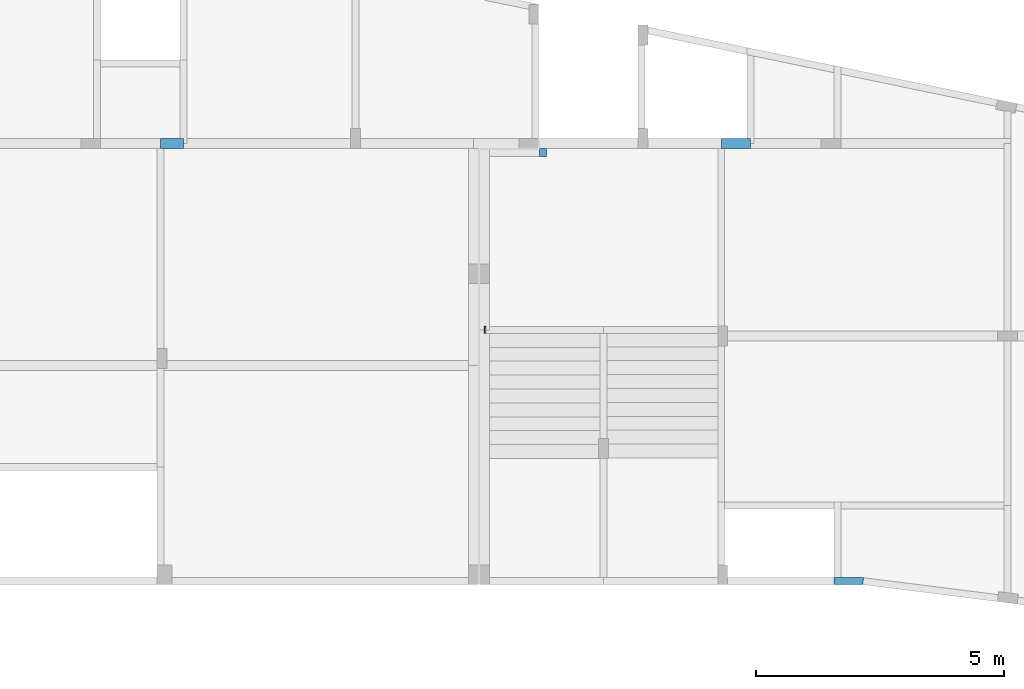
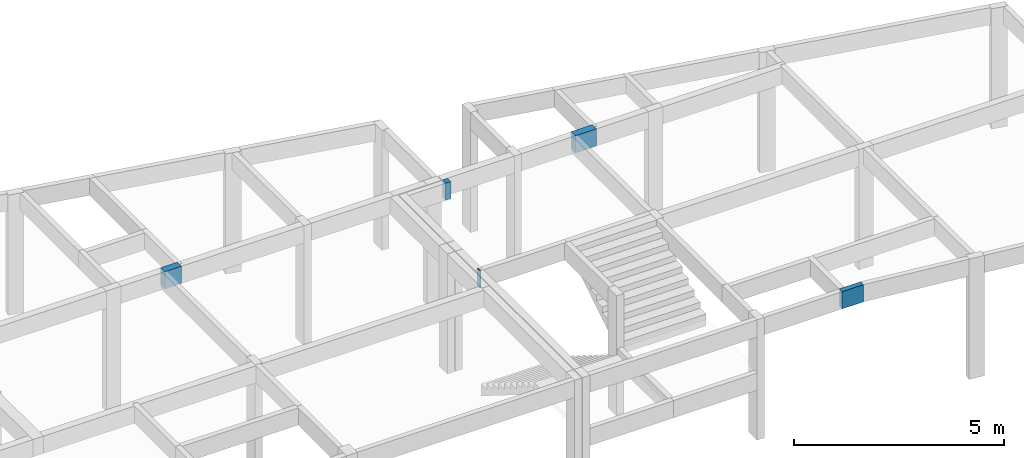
# One storey, part 3 of 5: 5 beams.
"""IFC4 building model written with IfcOpenShell, lengths in centimetres."""

from ifc_helpers import new_model, si_unit, derived_unit, frame, origin, origin_with_axes, origin_2d_with_axis, place, context, project, spatial, rectangle, extrude, clip, halfspace, material, element, save


model = new_model("IFC4")

# Units and contexts
model_context = context("Model", 3, precision=1e-05, world=origin_with_axes(), identifier="Body")
ifc_project = project(units=[si_unit("LENGTHUNIT", "METRE", prefix="CENTI"), si_unit("VOLUMEUNIT", "CUBIC_METRE"), si_unit("AREAUNIT", "SQUARE_METRE"), si_unit("POWERUNIT", "WATT"), si_unit("LUMINOUSFLUXUNIT", "LUMEN"), si_unit("ELECTRICCURRENTUNIT", "AMPERE"), si_unit("PRESSUREUNIT", "PASCAL", prefix="KILO"), si_unit("MASSUNIT", "GRAM", prefix="KILO"), si_unit("PLANEANGLEUNIT", "RADIAN"), derived_unit("VOLUMETRICFLOWRATEUNIT", [(si_unit("LENGTHUNIT", "METRE"), 3), (si_unit("TIMEUNIT", "SECOND"), -1)])], contexts=[model_context])

# Site, building, storey
site_placement = place(None, origin_with_axes())
site = spatial("IfcSite", under=ifc_project, at=site_placement)
building_placement = place(site_placement, origin())
building = spatial("IfcBuilding", under=site, at=building_placement)
placement_1 = place(building_placement, origin_with_axes())
placement_2 = place(placement_1, frame((0.0, 0.0, 550.0), z_axis=(0.0, 0.0, 1.0), x_axis=(1.0, 0.0, 0.0)))
storey_placement = place(placement_2, frame((0.0, 0.0, 350.0), z_axis=(0.0, 0.0, 1.0), x_axis=(1.0, 0.0, 0.0)))
storey = spatial("IfcBuildingStorey", under=building, at=storey_placement, Name="1º PAV.", CompositionType="ELEMENT", Elevation=900.0)

# Beams
ifc_material = material(Name="Concreto")
beam_1_placement = place(storey_placement, frame((2034.8, -455.9, 0.0), z_axis=(0.0, 0.0, 1.0), x_axis=(1.0, 0.0, 0.0)))
element("IfcBeam", 1, at=beam_1_placement, inside=storey, material=ifc_material, Name="V3", context=model_context, shape_type="SolidModel", body=[
    extrude(rectangle(XDim=20.0, YDim=50.0, at=origin_2d_with_axis()), frame((-23.2, 0.0, -25.0), z_axis=(1.0, 0.0, 0.0), x_axis=(0.0, 1.0, 0.0)), (0.0, 0.0, 1.0), 46.4),
])
beam_2_placement = place(storey_placement, frame((2782.0, -473.9, 0.0), z_axis=(0.0, 0.0, 1.0), x_axis=(1.0, 0.0, 0.0)))
element("IfcBeam", 2, at=beam_2_placement, inside=storey, material=ifc_material, Name="V39", context=model_context, shape_type="SolidModel", body=[
    extrude(rectangle(XDim=14.0, YDim=50.0, at=origin_2d_with_axis()), frame((0.0, -8.0, -25.0), z_axis=(0.0, 1.0, 0.0), x_axis=(1.0, 0.0, 0.0)), (0.0, 0.0, 1.0), 16.0),
])
beam_3_placement = place(storey_placement, frame((3169.8, -455.9, 0.0), z_axis=(0.0, 0.0, 1.0), x_axis=(1.0, 0.0, 0.0)))
element("IfcBeam", 3, at=beam_3_placement, inside=storey, material=ifc_material, Name="V5", context=model_context, shape_type="SolidModel", body=[
    extrude(rectangle(XDim=20.0, YDim=50.0, at=origin_2d_with_axis()), frame((-29.2, 0.0, -25.0), z_axis=(1.0, 0.0, 0.0), x_axis=(0.0, 1.0, 0.0)), (0.0, 0.0, 1.0), 58.4),
])
beam_4_placement = place(storey_placement, frame((3397.217338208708, -1337.0556334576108, 0.0), z_axis=(0.0, 0.0, 1.0), x_axis=(1.0, 0.0, 0.0)))
element("IfcBeam", 4, at=beam_4_placement, inside=storey, material=ifc_material, Name="V52", context=model_context, shape_type="Clipping", body=[
    clip(extrude(rectangle(XDim=14.0, YDim=50.0, at=origin_2d_with_axis()), frame((-29.618689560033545, -0.005718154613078, -25.0), z_axis=(1.0, 0.000193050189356, 0.0), x_axis=(-0.000193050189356, 1.0, 0.0)), (0.0, 0.0, 1.0), 59.24008292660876), halfspace(frame((29.620040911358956, 7.005718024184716, -50.0), z_axis=(-0.998053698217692, 0.06236036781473, 0.0), x_axis=(0.0, 0.0, -0.062553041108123)), True)),
])
beam_5_placement = place(storey_placement, frame((2665.1, -831.1, 0.0), z_axis=(0.0, 0.0, 1.0), x_axis=(1.0, 0.0, 0.0)))
element("IfcBeam", 5, at=beam_5_placement, inside=storey, material=ifc_material, Name="V9", context=model_context, shape_type="SolidModel", body=[
    extrude(rectangle(XDim=14.0, YDim=50.0, at=origin_2d_with_axis()), frame((-1.5, 0.0, -25.0), z_axis=(1.0, 0.0, 0.0), x_axis=(0.0, 1.0, 0.0)), (0.0, 0.0, 1.0), 3.0),
])

save(model, "model.ifc")
